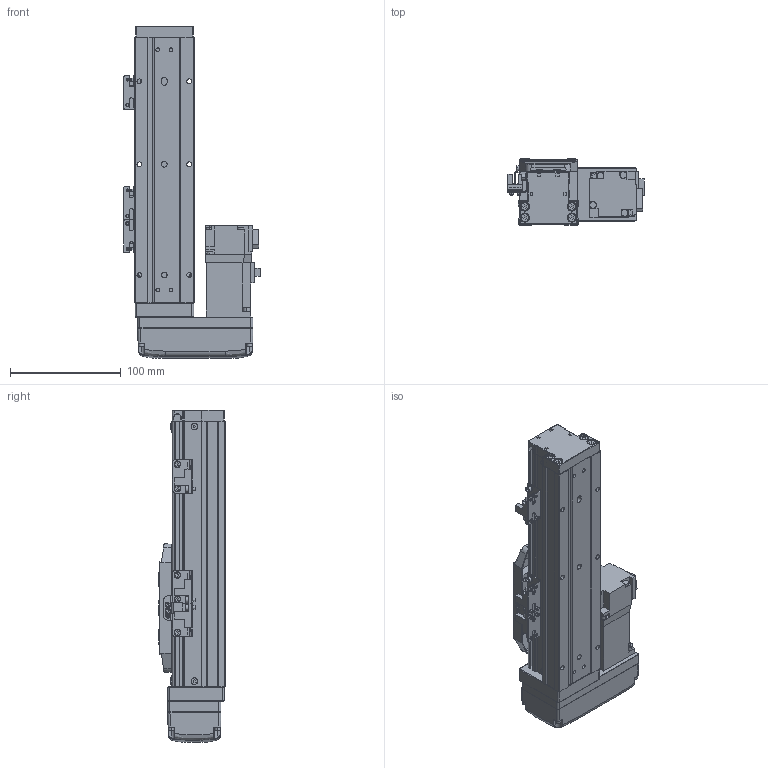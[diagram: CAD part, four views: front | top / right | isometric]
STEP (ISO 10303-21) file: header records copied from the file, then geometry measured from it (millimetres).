
FILE_DESCRIPTION (( 'STEP AP203' ), '1' );
FILE_NAME ('GTH5-100-BR-M10-C4.step', '2022-09-23T00:50:00', ( '微软用户' ), ( '微软中国' ), 'SwSTEP 2.0', 'SolidWorks 2020', '' );
FILE_SCHEMA (( 'CONFIG_CONTROL_DESIGN' ));
Length unit declared in the file: millimetre
Products named in the file (19): GTH50-001_100; GTH50-024; GTH5-100-BR-M10-C4; GBT 70.1-M4×16; GBT 70.1-M2.5×6; GTH50-003; GTH50-028; GTH50-006; GTH50-013; GTH50-022-1; GTH50-004; GTH50-023; HG-KR13; GBT 70.3-M3℅6; GBT 70.1-M3℅6; GTH50-027-1_BTHA50-027-2; BTH-M3X5X6; GBT96.1-2002 3×0.8; GTH50-026
Assembly tree (57 placements, depth 2):
  GTH5-100-BR-M10-C4
    GTH50-006
    GTH50-004
    GBT 70.3-M3℅6  x4
    BTH-M3X5X6  x8
    GTH50-001_100
    GBT 70.1-M4×16  x8
    GTH50-003
    GTH50-013
    GTH50-023  x3
    GBT 70.1-M3℅6  x12
    GBT96.1-2002 3×0.8  x6
    GTH50-024  x3
    GBT 70.1-M2.5×6  x2
    GTH50-028  x2
    GTH50-022-1
    HG-KR13
    GTH50-027-1_BTHA50-027-2
    GTH50-026
Bounding box: 123.6 x 60 x 300 mm (x, y, z)
Volume: 794757.7 mm3; surface area: 183115.6 mm2
Topology: 59 solids, 59 shells, 2140 faces, 4956 edges, 3036 vertices
Faces by surface type: plane 1142, cylinder 569, cone 219, torus 162, bspline 40, sphere 8
Entity records: 39420 total; most frequent: CARTESIAN_POINT 7827, DIRECTION 6045, ORIENTED_EDGE 5826, EDGE_CURVE 2913, AXIS2_PLACEMENT_3D 2092, LINE 1861, VECTOR 1861, VERTEX_POINT 1838
